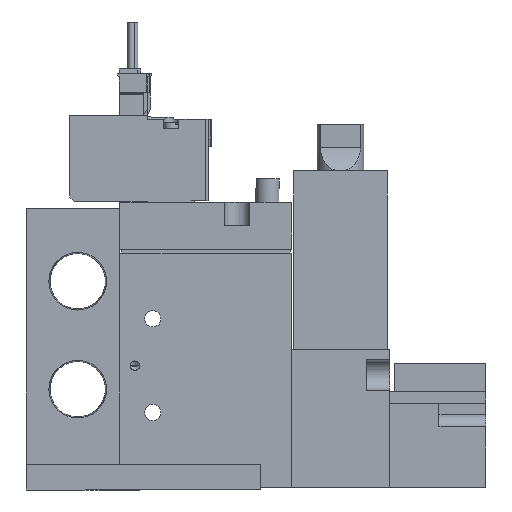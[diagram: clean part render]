
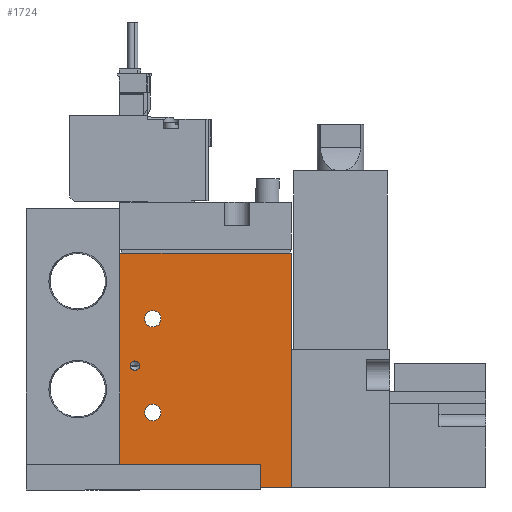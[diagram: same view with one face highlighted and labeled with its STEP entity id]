
A CAD part, left-side view. The second image highlights one B-rep face of the part: STEP entity #1724.
In plain terms, the highlighted planar face has unit normal (-1, 0, 0) as drawn and (1, 0, 0) by its records, which use the part's own axes.
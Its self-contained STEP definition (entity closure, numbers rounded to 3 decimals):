
#1724=ADVANCED_FACE('',(#2574,#2575,#2576,#2577),#2578,.F.);
#2574=FACE_BOUND('',#4336,.T.);
#2575=FACE_BOUND('',#4337,.T.);
#2576=FACE_BOUND('',#4338,.T.);
#2577=FACE_OUTER_BOUND('',#4339,.T.);
#2578=PLANE('',#4340);
#4336=EDGE_LOOP('',(#6413));
#4337=EDGE_LOOP('',(#6414));
#4338=EDGE_LOOP('',(#6415));
#4339=EDGE_LOOP('',(#6416,#6417,#6418,#6419));
#4340=AXIS2_PLACEMENT_3D('',#6420,#6421,#6422);
#6413=ORIENTED_EDGE('',*,*,#12104,.F.);
#6414=ORIENTED_EDGE('',*,*,#12097,.T.);
#6415=ORIENTED_EDGE('',*,*,#12085,.T.);
#6416=ORIENTED_EDGE('',*,*,#12105,.T.);
#6417=ORIENTED_EDGE('',*,*,#12095,.F.);
#6418=ORIENTED_EDGE('',*,*,#12106,.F.);
#6419=ORIENTED_EDGE('',*,*,#12099,.T.);
#6420=CARTESIAN_POINT('',(8.5,-19.444,50.0));
#6421=DIRECTION('',(-1.0,0.0,0.0));
#6422=DIRECTION('',(0.0,0.0,1.0));
#12085=EDGE_CURVE('',#14033,#14033,#14034,.T.);
#12095=EDGE_CURVE('',#14051,#14049,#14053,.T.);
#12097=EDGE_CURVE('',#14056,#14056,#14057,.T.);
#12099=EDGE_CURVE('',#14060,#14058,#14061,.T.);
#12104=EDGE_CURVE('',#14065,#14065,#14066,.T.);
#12105=EDGE_CURVE('',#14058,#14049,#14067,.T.);
#12106=EDGE_CURVE('',#14060,#14051,#14068,.T.);
#14033=VERTEX_POINT('',#17338);
#14034=CIRCLE('',#17339,1.75);
#14049=VERTEX_POINT('',#17358);
#14051=VERTEX_POINT('',#17361);
#14053=LINE('',#17364,#17365);
#14056=VERTEX_POINT('',#17368);
#14057=CIRCLE('',#17369,1.75);
#14058=VERTEX_POINT('',#17370);
#14060=VERTEX_POINT('',#17373);
#14061=LINE('',#17374,#17375);
#14065=VERTEX_POINT('',#17380);
#14066=CIRCLE('',#17381,1.0);
#14067=LINE('',#17382,#17383);
#14068=LINE('',#17384,#17385);
#17338=CARTESIAN_POINT('',(8.5,-10.694,16.0));
#17339=AXIS2_PLACEMENT_3D('',#21908,#21909,#21910);
#17358=CARTESIAN_POINT('',(8.5,17.056,0.0));
#17361=CARTESIAN_POINT('',(8.5,17.056,50.0));
#17364=CARTESIAN_POINT('',(8.5,17.056,50.0));
#17365=VECTOR('',#21926,1.0);
#17368=CARTESIAN_POINT('',(8.5,-10.694,36.0));
#17369=AXIS2_PLACEMENT_3D('',#21930,#21931,#21932);
#17370=CARTESIAN_POINT('',(8.5,-19.444,0.0));
#17373=CARTESIAN_POINT('',(8.5,-19.444,50.0));
#17374=CARTESIAN_POINT('',(8.5,-19.444,50.0));
#17375=VECTOR('',#21934,1.0);
#17380=CARTESIAN_POINT('',(8.5,-17.244,26.0));
#17381=AXIS2_PLACEMENT_3D('',#21939,#21940,#21941);
#17382=CARTESIAN_POINT('',(8.5,-19.444,0.0));
#17383=VECTOR('',#21942,1.0);
#17384=CARTESIAN_POINT('',(8.5,-19.444,50.0));
#17385=VECTOR('',#21943,1.0);
#21908=CARTESIAN_POINT('',(8.5,-12.444,16.0));
#21909=DIRECTION('',(-1.0,0.0,0.0));
#21910=DIRECTION('',(0.0,1.0,0.0));
#21926=DIRECTION('',(0.0,0.0,-1.0));
#21930=CARTESIAN_POINT('',(8.5,-12.444,36.0));
#21931=DIRECTION('',(-1.0,0.0,0.0));
#21932=DIRECTION('',(0.0,1.0,0.0));
#21934=DIRECTION('',(0.0,0.0,-1.0));
#21939=CARTESIAN_POINT('',(8.5,-16.244,26.0));
#21940=DIRECTION('',(1.0,0.,0.0));
#21941=DIRECTION('',(0.,-1.0,0.0));
#21942=DIRECTION('',(0.0,1.0,0.0));
#21943=DIRECTION('',(0.0,1.0,0.0));
